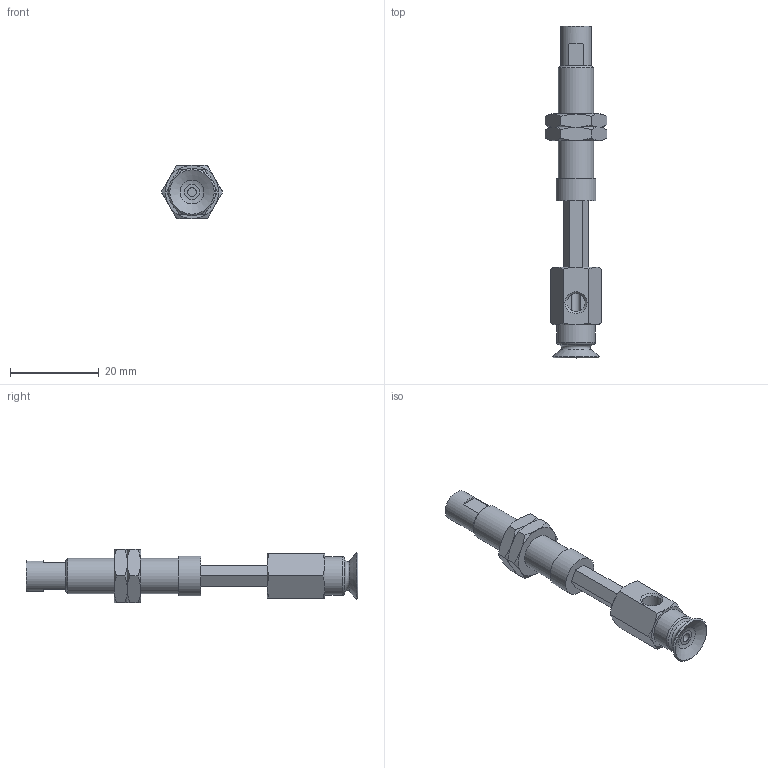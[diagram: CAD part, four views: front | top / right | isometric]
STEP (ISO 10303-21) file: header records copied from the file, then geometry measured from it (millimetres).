
FILE_DESCRIPTION(('STEP AP203'),'1');
FILE_NAME('.stp','2025-04-10T07:26:07',(' '),(' '),'Spatial InterOp 3D',' ',' ');
FILE_SCHEMA(('CONFIG_CONTROL_DESIGN'));
Length unit declared in the file: millimetre
Products named in the file (6): BNABPFYH-10A-15-※; CONNECTOR-H-10A-15; Nut-10A-15-h; NAPFTH-10A-15-FBODY; NAPFTH-10A-15-MBODY; BPFG-10A-※
Assembly tree (6 placements, depth 2):
  BNABPFYH-10A-15-※
    CONNECTOR-H-10A-15
    Nut-10A-15-h  x2
    NAPFTH-10A-15-FBODY
    NAPFTH-10A-15-MBODY
    BPFG-10A-※
Bounding box: 13.86 x 75 x 12 mm (x, y, z)
Volume: 3929.4 mm3; surface area: 4833.8 mm2
Topology: 6 solids, 6 shells, 139 faces, 300 edges, 183 vertices
Faces by surface type: plane 64, cone 51, cylinder 15, torus 8, bspline 1
Full cylindrical faces by diameter (mm): 2 x2, 4 x2, 4.134 x2, 5 x1, 6 x2, 7 x1, 7.188 x2, 8 x1, 8.7 x1, 9 x1
Entity records: 3467 total; most frequent: CARTESIAN_POINT 854, DIRECTION 478, ORIENTED_EDGE 418, EDGE_CURVE 209, AXIS2_PLACEMENT_3D 201, EDGE_LOOP 170, VERTEX_POINT 147, FACE_OUTER_BOUND 139
